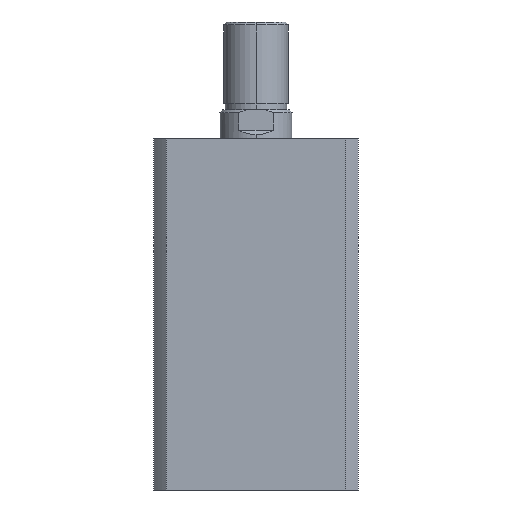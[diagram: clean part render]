
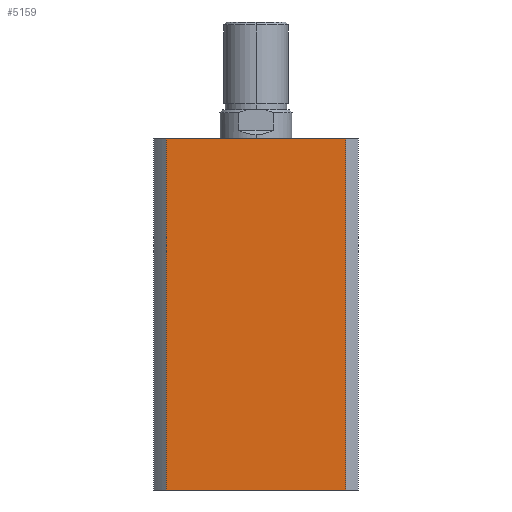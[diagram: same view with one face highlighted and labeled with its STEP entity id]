
A CAD part, left-side view. The second image highlights one B-rep face of the part: STEP entity #5159.
In plain terms, the highlighted planar face has unit normal (-1, 0, 0).
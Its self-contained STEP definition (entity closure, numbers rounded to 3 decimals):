
#342 = DIRECTION ( 'NONE',  ( 0., 0., -1. ) ) ;
#345 = CARTESIAN_POINT ( 'NONE',  ( -35., 30.615, 120. ) ) ;
#346 = CARTESIAN_POINT ( 'NONE',  ( -35., -30.615, 120. ) ) ;
#350 = CARTESIAN_POINT ( 'NONE',  ( -35., 0., 0. ) ) ;
#352 = DIRECTION ( 'NONE',  ( 0., -1., 0. ) ) ;
#353 = DIRECTION ( 'NONE',  ( 0., 0., -1. ) ) ;
#506 = DIRECTION ( 'NONE',  ( 0., -1., 0. ) ) ;
#507 = CARTESIAN_POINT ( 'NONE',  ( -35., 0., 120. ) ) ;
#816 = FACE_OUTER_BOUND ( 'NONE', #2556, .T. ) ;
#1492 = CARTESIAN_POINT ( 'NONE',  ( -35., -30.615, 0. ) ) ;
#1500 = CARTESIAN_POINT ( 'NONE',  ( -35., 30.615, 0. ) ) ;
#1646 = AXIS2_PLACEMENT_3D ( 'NONE', #3881, #3890, #3891 ) ;
#1996 = EDGE_CURVE ( 'NONE', #4678, #4656, #2983, .T. ) ;
#1998 = EDGE_CURVE ( 'NONE', #4659, #4656, #2988, .T. ) ;
#1999 = EDGE_CURVE ( 'NONE', #4681, #4659, #2987, .T. ) ;
#2030 = EDGE_CURVE ( 'NONE', #4681, #4678, #3030, .T. ) ;
#2556 = EDGE_LOOP ( 'NONE', ( #4163, #4164, #4165, #4166 ) ) ;
#2983 = LINE ( 'NONE', #346, #2989 ) ;
#2987 = LINE ( 'NONE', #345, #2993 ) ;
#2988 = LINE ( 'NONE', #350, #2991 ) ;
#2989 = VECTOR ( 'NONE', #342, 1000. ) ;
#2991 = VECTOR ( 'NONE', #352, 1000. ) ;
#2993 = VECTOR ( 'NONE', #353, 1000. ) ;
#3030 = LINE ( 'NONE', #507, #3032 ) ;
#3032 = VECTOR ( 'NONE', #506, 1000. ) ;
#3296 = CARTESIAN_POINT ( 'NONE',  ( -35., -30.615, 120. ) ) ;
#3299 = CARTESIAN_POINT ( 'NONE',  ( -35., 30.615, 120. ) ) ;
#3881 = CARTESIAN_POINT ( 'NONE',  ( -35., 0., 120. ) ) ;
#3888 = PLANE ( 'NONE',  #1646 ) ;
#3890 = DIRECTION ( 'NONE',  ( 1., 0., 0. ) ) ;
#3891 = DIRECTION ( 'NONE',  ( 0., 1., 0. ) ) ;
#4163 = ORIENTED_EDGE ( 'NONE', *, *, #1998, .T. ) ;
#4164 = ORIENTED_EDGE ( 'NONE', *, *, #1996, .F. ) ;
#4165 = ORIENTED_EDGE ( 'NONE', *, *, #2030, .F. ) ;
#4166 = ORIENTED_EDGE ( 'NONE', *, *, #1999, .T. ) ;
#4656 = VERTEX_POINT ( 'NONE', #1492 ) ;
#4659 = VERTEX_POINT ( 'NONE', #1500 ) ;
#4678 = VERTEX_POINT ( 'NONE', #3296 ) ;
#4681 = VERTEX_POINT ( 'NONE', #3299 ) ;
#5159 = ADVANCED_FACE ( 'NONE', ( #816 ), #3888, .F. ) ;
